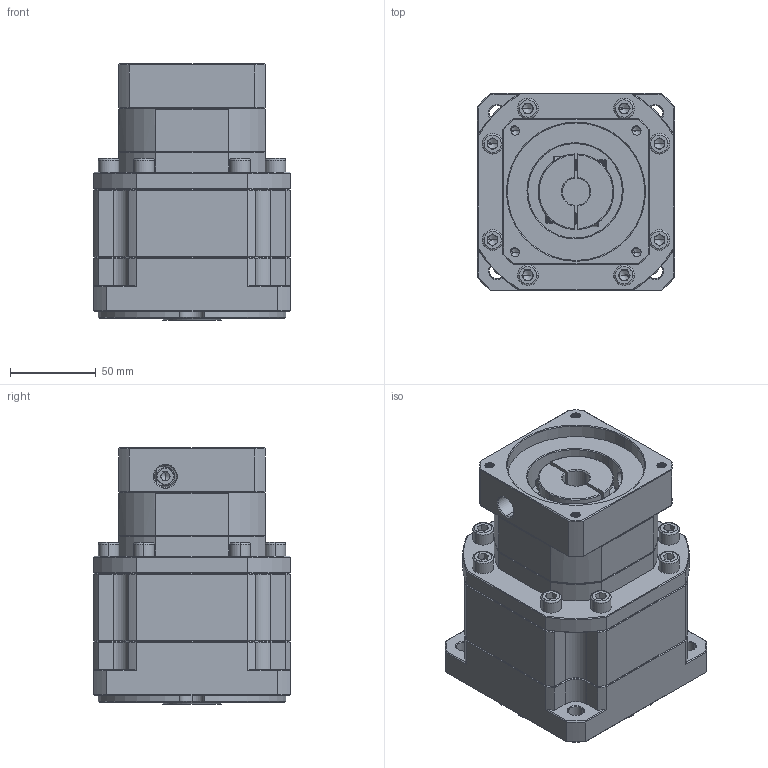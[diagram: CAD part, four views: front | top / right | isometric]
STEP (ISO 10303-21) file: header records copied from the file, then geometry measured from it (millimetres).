
FILE_DESCRIPTION (( 'STEP AP214' ), '1' );
FILE_NAME ('ZB115A-K25-L2-16-80-100-M6.step', '2023-03-03T09:57:52', ( '' ), ( 'Microsoft' ), 'SwSTEP 2.0', 'SolidWorks 2016', '' );
FILE_SCHEMA (( 'AUTOMOTIVE_DESIGN' ));
Length unit declared in the file: millimetre
Products named in the file (1): ZB115A-K25-L2-16-80-100-M6
Bounding box: 115 x 115 x 149 mm (x, y, z)
Volume: 1305463.5 mm3; surface area: 131268.8 mm2
Topology: 5 solids, 6 shells, 2080 faces, 5363 edges, 3380 vertices
Faces by surface type: plane 1003, cylinder 393, cone 349, bspline 320, torus 15
Entity records: 106970 total; most frequent: CARTESIAN_POINT 36177, ORIENTED_EDGE 10654, DIRECTION 8783, EDGE_CURVE 5327, VERTEX_POINT 3380, LINE 3365, VECTOR 3365, AXIS2_PLACEMENT_3D 2709
